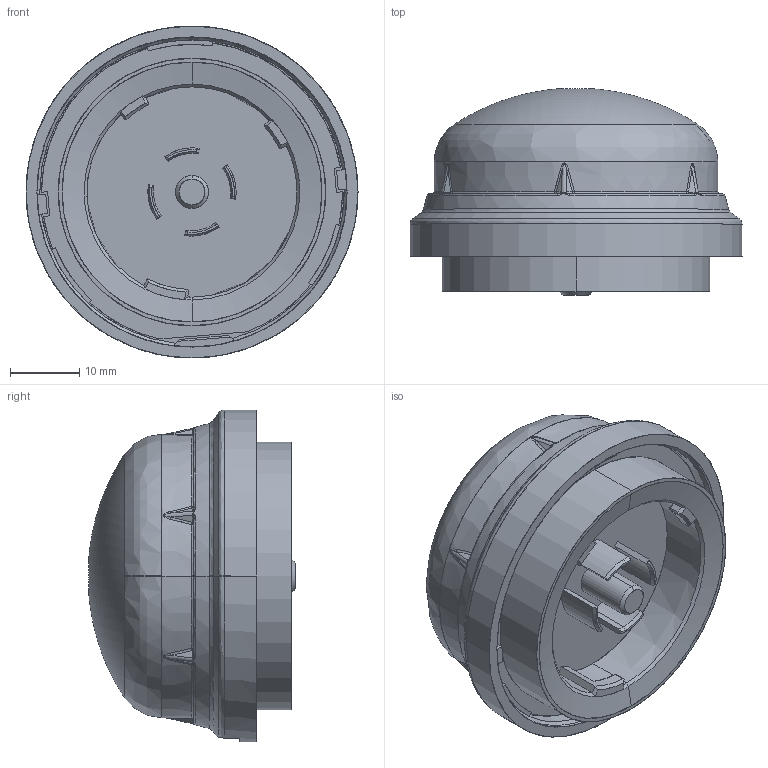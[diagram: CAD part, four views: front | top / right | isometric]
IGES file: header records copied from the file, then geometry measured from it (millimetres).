
Start section: SolidWorks IGES file using analytic representation for surfaces
Global section: file name: C:\Users\Public\HAOSENSOFTWARE\YFTSolidWorksArasPLM-V3.1.3-2023-beta\SaveAs_files\9C1-4551746-000-00.IGS; native system: SolidWorks 2023; preprocessor: SolidWorks 2023; author: P.SACHSENWEGER; date: 251017.122622; units: millimetre
Bounding box: 48 x 29.85 x 48 mm (x, y, z)
Surface area: 8312.1 mm2 (no closed solid volume)
Topology: 0 solids, 0 shells, 315 faces, 2806 edges, 2802 vertices
Faces by surface type: bspline 219, revolution 96
